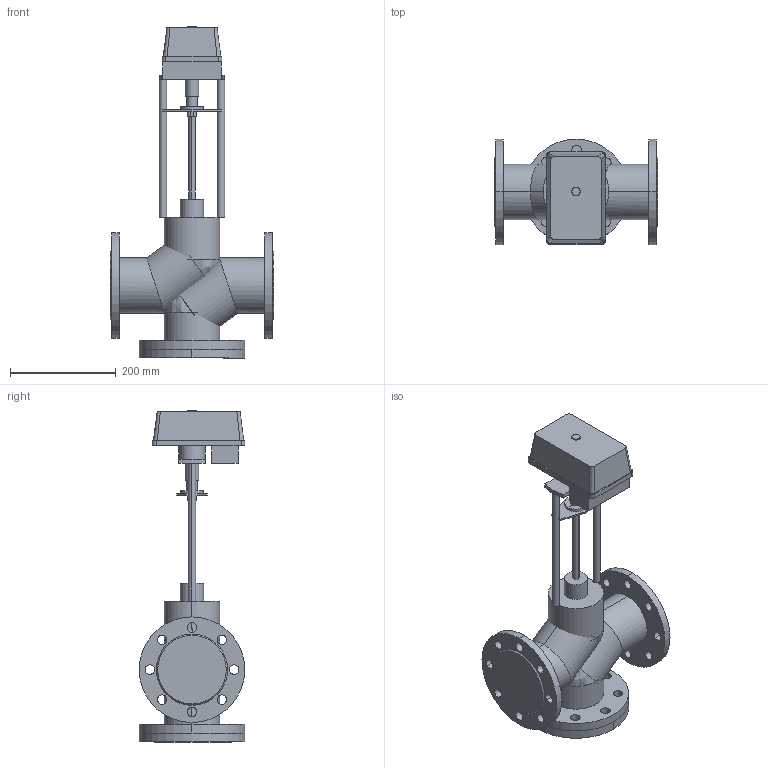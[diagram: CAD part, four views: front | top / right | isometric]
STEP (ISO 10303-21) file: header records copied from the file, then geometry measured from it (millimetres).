
FILE_DESCRIPTION(/* description */ (''),/* implementation_level */ '2;1');
FILE_NAME(/* name */ 'ТРК DN80 PN 1.6 МПа МИЭП-1 4000',/* time_stamp */ '2026-07-14T23:30:05+03:00',/* author */ (''),/* organization */ (''),/* preprocessor_version */ 'ST-DEVELOPER v20',/* originating_system */ '',/* authorisation */ '');
FILE_SCHEMA (('AP242_MANAGED_MODEL_BASED_3D_ENGINEERING_MIM_LF { 1 0 10303 442 1 1 4 }'));
Length unit declared in the file: millimetre
Products named in the file (14): TopLevelAssembly; Выдавливание; Модификатор; Модификатор_1; Выдавливание_
1; Выдавливание_
2; Вращение; Выдавливание_
3; Выдавливание_
4; 4000; Переход; Объемная геометрия 
присоединена; Полый Выдавливание; Объемная геометрия 
присоединена_1
Assembly tree (13 placements, depth 2):
  TopLevelAssembly
    Выдавливание
    Модификатор
    Модификатор_1
    Выдавливание_
1
    Выдавливание_
2
    Вращение
    Выдавливание_
3
    Выдавливание_
4
    4000
    Переход
    Объемная геометрия 
присоединена
    Полый Выдавливание
    Объемная геометрия 
присоединена_1
Bounding box: 310 x 200 x 629 mm (x, y, z)
Volume: 8377445.3 mm3; surface area: 806852.1 mm2
Topology: 23 solids, 23 shells, 200 faces, 441 edges, 282 vertices
Faces by surface type: cylinder 104, plane 84, bspline 8, cone 4
Entity records: 6283 total; most frequent: CARTESIAN_POINT 1130, DIRECTION 1099, ORIENTED_EDGE 866, AXIS2_PLACEMENT_3D 447, EDGE_CURVE 433, VERTEX_POINT 282, EDGE_LOOP 255, CIRCLE 220
